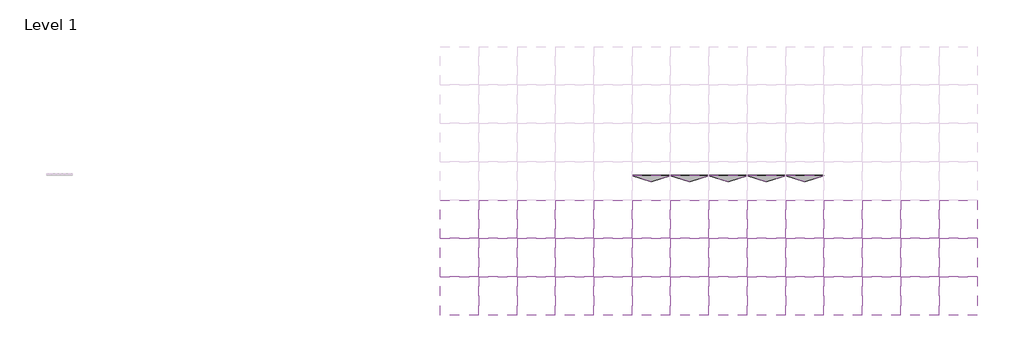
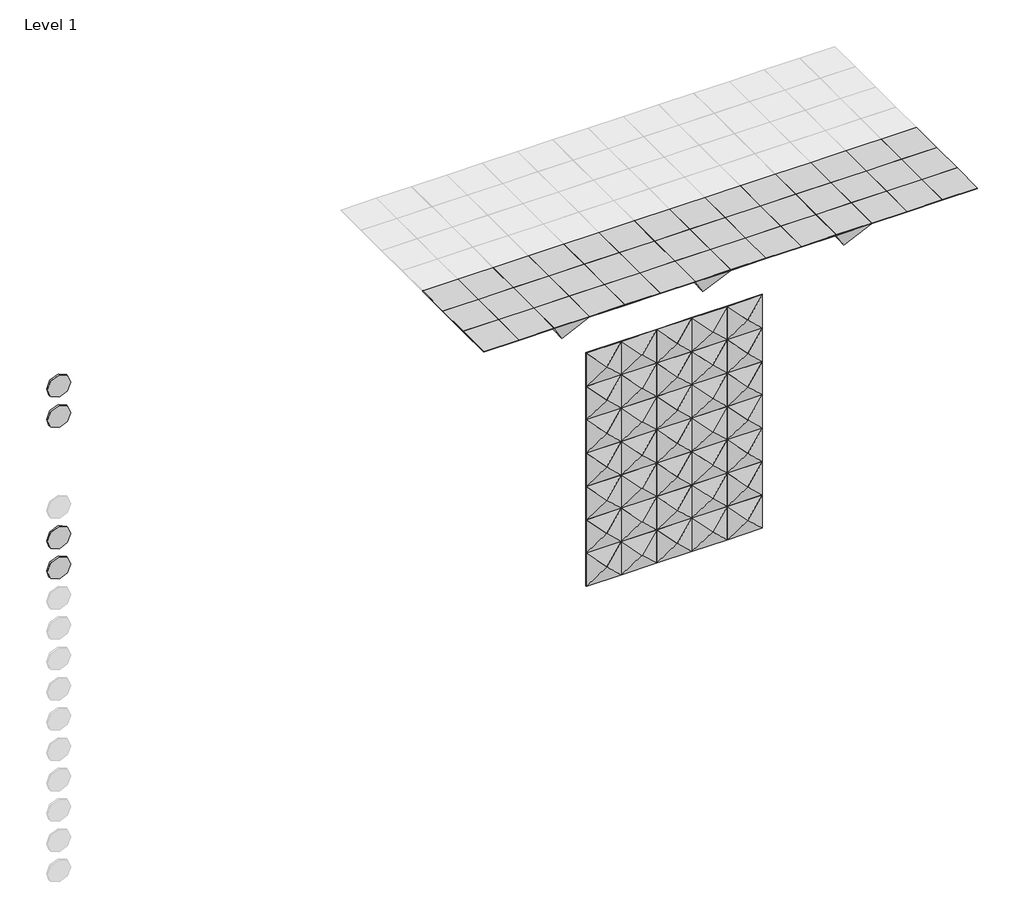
# One storey, part 1 of 2: 46 proxies, 35 plates.
"""IFC4 building model written with IfcOpenShell, lengths in millimetres."""

from ifc_helpers import new_model, si_unit, origin, place, context, project, spatial, transform, mapped, element, save
from components import generic_models_96c18039, generic_models_05e9e51e, generic_models_07637b28, materialmodel_materialmodel_8d9c29e1, plate_2ed3a2ff

model = new_model("IFC4")

# Units and contexts
model_context = context("Model", 3, world=origin())
ifc_project = project(units=[si_unit("LENGTHUNIT", "METRE", prefix="MILLI")], contexts=[model_context])

# Site, building, storey
site = spatial("IfcSite", under=ifc_project)
building = spatial("IfcBuilding", under=site)
storey = spatial("IfcBuildingStorey", under=building, Name="Level 1", Elevation=0.0)

# Proxies
placement = place(None, origin())
generic_models_shape = generic_models_96c18039(model_context)
element("IfcBuildingElementProxy", 1, Name="Offecct - Spiegel Panel - High : Offecct - Spiegel Panel - High", ObjectType="Offecct - Spiegel Panel - High : Offecct - Spiegel Panel - High", at=placement, inside=storey, context=model_context, shape_type="MappedRepresentation", body=[
    mapped(generic_models_shape, transform((-2002.4310671, -1268.9324246, 6600.0), x_axis=(1.0, 0.0, 0.0), y_axis=(0.0, -1.0, 0.0), z_axis=(0.0, 0.0, -1.0))),
])
element("IfcBuildingElementProxy", 2, Name="Offecct - Spiegel Panel - High : Offecct - Spiegel Panel - High", ObjectType="Offecct - Spiegel Panel - High : Offecct - Spiegel Panel - High", at=placement, inside=storey, context=model_context, shape_type="MappedRepresentation", body=[
    mapped(generic_models_shape, transform((397.5689329, -1268.9324246, 6600.0), x_axis=(1.0, 0.0, 0.0), y_axis=(0.0, -1.0, 0.0), z_axis=(0.0, 0.0, -1.0))),
])
element("IfcBuildingElementProxy", 3, Name="Offecct - Spiegel Panel - High : Offecct - Spiegel Panel - High", ObjectType="Offecct - Spiegel Panel - High : Offecct - Spiegel Panel - High", at=placement, inside=storey, context=model_context, shape_type="MappedRepresentation", body=[
    mapped(generic_models_shape, transform((2797.5689329, -1268.9324246, 6600.0), x_axis=(1.0, 0.0, 0.0), y_axis=(0.0, -1.0, 0.0), z_axis=(0.0, 0.0, -1.0))),
])
element("IfcBuildingElementProxy", 4, Name="Offecct - Spiegel Panel - High : Offecct - Spiegel Panel - High", ObjectType="Offecct - Spiegel Panel - High : Offecct - Spiegel Panel - High", at=placement, inside=storey, context=model_context, shape_type="MappedRepresentation", body=[
    mapped(generic_models_shape, transform((-2002.4310671, -668.9324246, 6600.0), x_axis=(1.0, 0.0, 0.0), y_axis=(0.0, -1.0, 0.0), z_axis=(0.0, 0.0, -1.0))),
])
element("IfcBuildingElementProxy", 5, Name="Offecct - Spiegel Panel - High : Offecct - Spiegel Panel - High", ObjectType="Offecct - Spiegel Panel - High : Offecct - Spiegel Panel - High", at=placement, inside=storey, context=model_context, shape_type="MappedRepresentation", body=[
    mapped(generic_models_shape, transform((397.5689329, -668.9324246, 6600.0), x_axis=(1.0, 0.0, 0.0), y_axis=(0.0, -1.0, 0.0), z_axis=(0.0, 0.0, -1.0))),
])
element("IfcBuildingElementProxy", 6, Name="Offecct - Spiegel Panel - High : Offecct - Spiegel Panel - High", ObjectType="Offecct - Spiegel Panel - High : Offecct - Spiegel Panel - High", at=placement, inside=storey, context=model_context, shape_type="MappedRepresentation", body=[
    mapped(generic_models_shape, transform((2797.5689329, -668.9324246, 6600.0), x_axis=(1.0, 0.0, 0.0), y_axis=(0.0, -1.0, 0.0), z_axis=(0.0, 0.0, -1.0))),
])
element("IfcBuildingElementProxy", 7, Name="Offecct - Spiegel Panel - High : Offecct - Spiegel Panel - High", ObjectType="Offecct - Spiegel Panel - High : Offecct - Spiegel Panel - High", at=placement, inside=storey, context=model_context, shape_type="MappedRepresentation", body=[
    mapped(generic_models_shape, transform((-2002.4310671, -68.9324246, 6600.0), x_axis=(1.0, 0.0, 0.0), y_axis=(0.0, -1.0, 0.0), z_axis=(0.0, 0.0, -1.0))),
])
element("IfcBuildingElementProxy", 8, Name="Offecct - Spiegel Panel - High : Offecct - Spiegel Panel - High", ObjectType="Offecct - Spiegel Panel - High : Offecct - Spiegel Panel - High", at=placement, inside=storey, context=model_context, shape_type="MappedRepresentation", body=[
    mapped(generic_models_shape, transform((397.5689329, -68.9324246, 6600.0), x_axis=(1.0, 0.0, 0.0), y_axis=(0.0, -1.0, 0.0), z_axis=(0.0, 0.0, -1.0))),
])
element("IfcBuildingElementProxy", 9, Name="Offecct - Spiegel Panel - High : Offecct - Spiegel Panel - High", ObjectType="Offecct - Spiegel Panel - High : Offecct - Spiegel Panel - High", at=placement, inside=storey, context=model_context, shape_type="MappedRepresentation", body=[
    mapped(generic_models_shape, transform((2797.5689329, -68.9324246, 6600.0), x_axis=(1.0, 0.0, 0.0), y_axis=(0.0, -1.0, 0.0), z_axis=(0.0, 0.0, -1.0))),
])
generic_models_2_shape = generic_models_05e9e51e(model_context)
element("IfcBuildingElementProxy", 10, Name="Offecct - Spiegel Panel - Medium : Offecct - Spiegel Panel - Medium", ObjectType="Offecct - Spiegel Panel - Medium : Offecct - Spiegel Panel - Medium", at=placement, inside=storey, context=model_context, shape_type="MappedRepresentation", body=[
    mapped(generic_models_2_shape, transform((-2602.4310671, -1268.9324246, 6600.0), x_axis=(1.0, 0.0, 0.0), y_axis=(0.0, -1.0, 0.0), z_axis=(0.0, 0.0, -1.0))),
])
element("IfcBuildingElementProxy", 11, Name="Offecct - Spiegel Panel - Medium : Offecct - Spiegel Panel - Medium", ObjectType="Offecct - Spiegel Panel - Medium : Offecct - Spiegel Panel - Medium", at=placement, inside=storey, context=model_context, shape_type="MappedRepresentation", body=[
    mapped(generic_models_2_shape, transform((-1402.4310671, -1268.9324246, 6600.0), x_axis=(1.0, 0.0, 0.0), y_axis=(0.0, -1.0, 0.0), z_axis=(0.0, 0.0, -1.0))),
])
element("IfcBuildingElementProxy", 12, Name="Offecct - Spiegel Panel - Medium : Offecct - Spiegel Panel - Medium", ObjectType="Offecct - Spiegel Panel - Medium : Offecct - Spiegel Panel - Medium", at=placement, inside=storey, context=model_context, shape_type="MappedRepresentation", body=[
    mapped(generic_models_2_shape, transform((-202.4310671, -1268.9324246, 6600.0), x_axis=(1.0, 0.0, 0.0), y_axis=(0.0, -1.0, 0.0), z_axis=(0.0, 0.0, -1.0))),
])
element("IfcBuildingElementProxy", 13, Name="Offecct - Spiegel Panel - Medium : Offecct - Spiegel Panel - Medium", ObjectType="Offecct - Spiegel Panel - Medium : Offecct - Spiegel Panel - Medium", at=placement, inside=storey, context=model_context, shape_type="MappedRepresentation", body=[
    mapped(generic_models_2_shape, transform((997.5689329, -1268.9324246, 6600.0), x_axis=(1.0, 0.0, 0.0), y_axis=(0.0, -1.0, 0.0), z_axis=(0.0, 0.0, -1.0))),
])
element("IfcBuildingElementProxy", 14, Name="Offecct - Spiegel Panel - Medium : Offecct - Spiegel Panel - Medium", ObjectType="Offecct - Spiegel Panel - Medium : Offecct - Spiegel Panel - Medium", at=placement, inside=storey, context=model_context, shape_type="MappedRepresentation", body=[
    mapped(generic_models_2_shape, transform((2197.5689329, -1268.9324246, 6600.0), x_axis=(1.0, 0.0, 0.0), y_axis=(0.0, -1.0, 0.0), z_axis=(0.0, 0.0, -1.0))),
])
element("IfcBuildingElementProxy", 15, Name="Offecct - Spiegel Panel - Medium : Offecct - Spiegel Panel - Medium", ObjectType="Offecct - Spiegel Panel - Medium : Offecct - Spiegel Panel - Medium", at=placement, inside=storey, context=model_context, shape_type="MappedRepresentation", body=[
    mapped(generic_models_2_shape, transform((3397.5689329, -1268.9324246, 6600.0), x_axis=(1.0, 0.0, 0.0), y_axis=(0.0, -1.0, 0.0), z_axis=(0.0, 0.0, -1.0))),
])
element("IfcBuildingElementProxy", 16, Name="Offecct - Spiegel Panel - Medium : Offecct - Spiegel Panel - Medium", ObjectType="Offecct - Spiegel Panel - Medium : Offecct - Spiegel Panel - Medium", at=placement, inside=storey, context=model_context, shape_type="MappedRepresentation", body=[
    mapped(generic_models_2_shape, transform((4597.5689329, -1268.9324246, 6600.0), x_axis=(1.0, 0.0, 0.0), y_axis=(0.0, -1.0, 0.0), z_axis=(0.0, 0.0, -1.0))),
])
element("IfcBuildingElementProxy", 17, Name="Offecct - Spiegel Panel - Medium : Offecct - Spiegel Panel - Medium", ObjectType="Offecct - Spiegel Panel - Medium : Offecct - Spiegel Panel - Medium", at=placement, inside=storey, context=model_context, shape_type="MappedRepresentation", body=[
    mapped(generic_models_2_shape, transform((-2602.4310671, -668.9324246, 6600.0), x_axis=(1.0, 0.0, 0.0), y_axis=(0.0, -1.0, 0.0), z_axis=(0.0, 0.0, -1.0))),
])
element("IfcBuildingElementProxy", 18, Name="Offecct - Spiegel Panel - Medium : Offecct - Spiegel Panel - Medium", ObjectType="Offecct - Spiegel Panel - Medium : Offecct - Spiegel Panel - Medium", at=placement, inside=storey, context=model_context, shape_type="MappedRepresentation", body=[
    mapped(generic_models_2_shape, transform((-1402.4310671, -668.9324246, 6600.0), x_axis=(1.0, 0.0, 0.0), y_axis=(0.0, -1.0, 0.0), z_axis=(0.0, 0.0, -1.0))),
])
element("IfcBuildingElementProxy", 19, Name="Offecct - Spiegel Panel - Medium : Offecct - Spiegel Panel - Medium", ObjectType="Offecct - Spiegel Panel - Medium : Offecct - Spiegel Panel - Medium", at=placement, inside=storey, context=model_context, shape_type="MappedRepresentation", body=[
    mapped(generic_models_2_shape, transform((-202.4310671, -668.9324246, 6600.0), x_axis=(1.0, 0.0, 0.0), y_axis=(0.0, -1.0, 0.0), z_axis=(0.0, 0.0, -1.0))),
])
element("IfcBuildingElementProxy", 20, Name="Offecct - Spiegel Panel - Medium : Offecct - Spiegel Panel - Medium", ObjectType="Offecct - Spiegel Panel - Medium : Offecct - Spiegel Panel - Medium", at=placement, inside=storey, context=model_context, shape_type="MappedRepresentation", body=[
    mapped(generic_models_2_shape, transform((997.5689329, -668.9324246, 6600.0), x_axis=(1.0, 0.0, 0.0), y_axis=(0.0, -1.0, 0.0), z_axis=(0.0, 0.0, -1.0))),
])
element("IfcBuildingElementProxy", 21, Name="Offecct - Spiegel Panel - Medium : Offecct - Spiegel Panel - Medium", ObjectType="Offecct - Spiegel Panel - Medium : Offecct - Spiegel Panel - Medium", at=placement, inside=storey, context=model_context, shape_type="MappedRepresentation", body=[
    mapped(generic_models_2_shape, transform((2197.5689329, -668.9324246, 6600.0), x_axis=(1.0, 0.0, 0.0), y_axis=(0.0, -1.0, 0.0), z_axis=(0.0, 0.0, -1.0))),
])
element("IfcBuildingElementProxy", 22, Name="Offecct - Spiegel Panel - Medium : Offecct - Spiegel Panel - Medium", ObjectType="Offecct - Spiegel Panel - Medium : Offecct - Spiegel Panel - Medium", at=placement, inside=storey, context=model_context, shape_type="MappedRepresentation", body=[
    mapped(generic_models_2_shape, transform((3397.5689329, -668.9324246, 6600.0), x_axis=(1.0, 0.0, 0.0), y_axis=(0.0, -1.0, 0.0), z_axis=(0.0, 0.0, -1.0))),
])
element("IfcBuildingElementProxy", 23, Name="Offecct - Spiegel Panel - Medium : Offecct - Spiegel Panel - Medium", ObjectType="Offecct - Spiegel Panel - Medium : Offecct - Spiegel Panel - Medium", at=placement, inside=storey, context=model_context, shape_type="MappedRepresentation", body=[
    mapped(generic_models_2_shape, transform((4597.5689329, -668.9324246, 6600.0), x_axis=(1.0, 0.0, 0.0), y_axis=(0.0, -1.0, 0.0), z_axis=(0.0, 0.0, -1.0))),
])
element("IfcBuildingElementProxy", 24, Name="Offecct - Spiegel Panel - Medium : Offecct - Spiegel Panel - Medium", ObjectType="Offecct - Spiegel Panel - Medium : Offecct - Spiegel Panel - Medium", at=placement, inside=storey, context=model_context, shape_type="MappedRepresentation", body=[
    mapped(generic_models_2_shape, transform((-2602.4310671, -68.9324246, 6600.0), x_axis=(1.0, 0.0, 0.0), y_axis=(0.0, -1.0, 0.0), z_axis=(0.0, 0.0, -1.0))),
])
element("IfcBuildingElementProxy", 25, Name="Offecct - Spiegel Panel - Medium : Offecct - Spiegel Panel - Medium", ObjectType="Offecct - Spiegel Panel - Medium : Offecct - Spiegel Panel - Medium", at=placement, inside=storey, context=model_context, shape_type="MappedRepresentation", body=[
    mapped(generic_models_2_shape, transform((-1402.4310671, -68.9324246, 6600.0), x_axis=(1.0, 0.0, 0.0), y_axis=(0.0, -1.0, 0.0), z_axis=(0.0, 0.0, -1.0))),
])
element("IfcBuildingElementProxy", 26, Name="Offecct - Spiegel Panel - Medium : Offecct - Spiegel Panel - Medium", ObjectType="Offecct - Spiegel Panel - Medium : Offecct - Spiegel Panel - Medium", at=placement, inside=storey, context=model_context, shape_type="MappedRepresentation", body=[
    mapped(generic_models_2_shape, transform((-202.4310671, -68.9324246, 6600.0), x_axis=(1.0, 0.0, 0.0), y_axis=(0.0, -1.0, 0.0), z_axis=(0.0, 0.0, -1.0))),
])
element("IfcBuildingElementProxy", 27, Name="Offecct - Spiegel Panel - Medium : Offecct - Spiegel Panel - Medium", ObjectType="Offecct - Spiegel Panel - Medium : Offecct - Spiegel Panel - Medium", at=placement, inside=storey, context=model_context, shape_type="MappedRepresentation", body=[
    mapped(generic_models_2_shape, transform((997.5689329, -68.9324246, 6600.0), x_axis=(1.0, 0.0, 0.0), y_axis=(0.0, -1.0, 0.0), z_axis=(0.0, 0.0, -1.0))),
])
element("IfcBuildingElementProxy", 28, Name="Offecct - Spiegel Panel - Medium : Offecct - Spiegel Panel - Medium", ObjectType="Offecct - Spiegel Panel - Medium : Offecct - Spiegel Panel - Medium", at=placement, inside=storey, context=model_context, shape_type="MappedRepresentation", body=[
    mapped(generic_models_2_shape, transform((2197.5689329, -68.9324246, 6600.0), x_axis=(1.0, 0.0, 0.0), y_axis=(0.0, -1.0, 0.0), z_axis=(0.0, 0.0, -1.0))),
])
element("IfcBuildingElementProxy", 29, Name="Offecct - Spiegel Panel - Medium : Offecct - Spiegel Panel - Medium", ObjectType="Offecct - Spiegel Panel - Medium : Offecct - Spiegel Panel - Medium", at=placement, inside=storey, context=model_context, shape_type="MappedRepresentation", body=[
    mapped(generic_models_2_shape, transform((3397.5689329, -68.9324246, 6600.0), x_axis=(1.0, 0.0, 0.0), y_axis=(0.0, -1.0, 0.0), z_axis=(0.0, 0.0, -1.0))),
])
element("IfcBuildingElementProxy", 30, Name="Offecct - Spiegel Panel - Medium : Offecct - Spiegel Panel - Medium", ObjectType="Offecct - Spiegel Panel - Medium : Offecct - Spiegel Panel - Medium", at=placement, inside=storey, context=model_context, shape_type="MappedRepresentation", body=[
    mapped(generic_models_2_shape, transform((4597.5689329, -68.9324246, 6600.0), x_axis=(1.0, 0.0, 0.0), y_axis=(0.0, -1.0, 0.0), z_axis=(0.0, 0.0, -1.0))),
])
generic_models_3_shape = generic_models_07637b28(model_context)
element("IfcBuildingElementProxy", 31, Name="Offecct - Spiegel Panel - Low : Offecct - Spiegel Panel - Low", ObjectType="Offecct - Spiegel Panel - Low : Offecct - Spiegel Panel - Low", at=placement, inside=storey, context=model_context, shape_type="MappedRepresentation", body=[
    mapped(generic_models_3_shape, transform((-802.4310671, -1268.9324246, 6600.0), x_axis=(1.0, 0.0, 0.0), y_axis=(0.0, -1.0, 0.0), z_axis=(0.0, 0.0, -1.0))),
])
element("IfcBuildingElementProxy", 32, Name="Offecct - Spiegel Panel - Low : Offecct - Spiegel Panel - Low", ObjectType="Offecct - Spiegel Panel - Low : Offecct - Spiegel Panel - Low", at=placement, inside=storey, context=model_context, shape_type="MappedRepresentation", body=[
    mapped(generic_models_3_shape, transform((1597.5689329, -1268.9324246, 6600.0), x_axis=(1.0, 0.0, 0.0), y_axis=(0.0, -1.0, 0.0), z_axis=(0.0, 0.0, -1.0))),
])
element("IfcBuildingElementProxy", 33, Name="Offecct - Spiegel Panel - Low : Offecct - Spiegel Panel - Low", ObjectType="Offecct - Spiegel Panel - Low : Offecct - Spiegel Panel - Low", at=placement, inside=storey, context=model_context, shape_type="MappedRepresentation", body=[
    mapped(generic_models_3_shape, transform((3997.5689329, -1268.9324246, 6600.0), x_axis=(1.0, 0.0, 0.0), y_axis=(0.0, -1.0, 0.0), z_axis=(0.0, 0.0, -1.0))),
])
element("IfcBuildingElementProxy", 34, Name="Offecct - Spiegel Panel - Low : Offecct - Spiegel Panel - Low", ObjectType="Offecct - Spiegel Panel - Low : Offecct - Spiegel Panel - Low", at=placement, inside=storey, context=model_context, shape_type="MappedRepresentation", body=[
    mapped(generic_models_3_shape, transform((-802.4310671, -668.9324246, 6600.0), x_axis=(1.0, 0.0, 0.0), y_axis=(0.0, -1.0, 0.0), z_axis=(0.0, 0.0, -1.0))),
])
element("IfcBuildingElementProxy", 35, Name="Offecct - Spiegel Panel - Low : Offecct - Spiegel Panel - Low", ObjectType="Offecct - Spiegel Panel - Low : Offecct - Spiegel Panel - Low", at=placement, inside=storey, context=model_context, shape_type="MappedRepresentation", body=[
    mapped(generic_models_3_shape, transform((1597.5689329, -668.9324246, 6600.0), x_axis=(1.0, 0.0, 0.0), y_axis=(0.0, -1.0, 0.0), z_axis=(0.0, 0.0, -1.0))),
])
element("IfcBuildingElementProxy", 36, Name="Offecct - Spiegel Panel - Low : Offecct - Spiegel Panel - Low", ObjectType="Offecct - Spiegel Panel - Low : Offecct - Spiegel Panel - Low", at=placement, inside=storey, context=model_context, shape_type="MappedRepresentation", body=[
    mapped(generic_models_3_shape, transform((3997.5689329, -668.9324246, 6600.0), x_axis=(1.0, 0.0, 0.0), y_axis=(0.0, -1.0, 0.0), z_axis=(0.0, 0.0, -1.0))),
])
element("IfcBuildingElementProxy", 37, Name="Offecct - Spiegel Panel - Low : Offecct - Spiegel Panel - Low", ObjectType="Offecct - Spiegel Panel - Low : Offecct - Spiegel Panel - Low", at=placement, inside=storey, context=model_context, shape_type="MappedRepresentation", body=[
    mapped(generic_models_3_shape, transform((-802.4310671, -68.9324246, 6600.0), x_axis=(1.0, 0.0, 0.0), y_axis=(0.0, -1.0, 0.0), z_axis=(0.0, 0.0, -1.0))),
])
element("IfcBuildingElementProxy", 38, Name="Offecct - Spiegel Panel - Low : Offecct - Spiegel Panel - Low", ObjectType="Offecct - Spiegel Panel - Low : Offecct - Spiegel Panel - Low", at=placement, inside=storey, context=model_context, shape_type="MappedRepresentation", body=[
    mapped(generic_models_3_shape, transform((1597.5689329, -68.9324246, 6600.0), x_axis=(1.0, 0.0, 0.0), y_axis=(0.0, -1.0, 0.0), z_axis=(0.0, 0.0, -1.0))),
])
element("IfcBuildingElementProxy", 39, Name="Offecct - Spiegel Panel - Low : Offecct - Spiegel Panel - Low", ObjectType="Offecct - Spiegel Panel - Low : Offecct - Spiegel Panel - Low", at=placement, inside=storey, context=model_context, shape_type="MappedRepresentation", body=[
    mapped(generic_models_3_shape, transform((3997.5689329, -68.9324246, 6600.0), x_axis=(1.0, 0.0, 0.0), y_axis=(0.0, -1.0, 0.0), z_axis=(0.0, 0.0, -1.0))),
])
element("IfcBuildingElementProxy", 40, Name="Offecct - Spiegel Panel - Low : Offecct - Spiegel Panel - Low", ObjectType="Offecct - Spiegel Panel - Low : Offecct - Spiegel Panel - Low", at=placement, inside=storey, context=model_context, shape_type="MappedRepresentation", body=[
    mapped(generic_models_3_shape, transform((-3202.4310671, -1268.9324246, 6600.0), x_axis=(1.0, 0.0, 0.0), y_axis=(0.0, -1.0, 0.0), z_axis=(0.0, 0.0, -1.0))),
])
element("IfcBuildingElementProxy", 41, Name="Offecct - Spiegel Panel - Low : Offecct - Spiegel Panel - Low", ObjectType="Offecct - Spiegel Panel - Low : Offecct - Spiegel Panel - Low", at=placement, inside=storey, context=model_context, shape_type="MappedRepresentation", body=[
    mapped(generic_models_3_shape, transform((-3202.4310671, -668.9324246, 6600.0), x_axis=(1.0, 0.0, 0.0), y_axis=(0.0, -1.0, 0.0), z_axis=(0.0, 0.0, -1.0))),
])
element("IfcBuildingElementProxy", 42, Name="Offecct - Spiegel Panel - Low : Offecct - Spiegel Panel - Low", ObjectType="Offecct - Spiegel Panel - Low : Offecct - Spiegel Panel - Low", at=placement, inside=storey, context=model_context, shape_type="MappedRepresentation", body=[
    mapped(generic_models_3_shape, transform((-3202.4310671, -68.9324246, 6600.0), x_axis=(1.0, 0.0, 0.0), y_axis=(0.0, -1.0, 0.0), z_axis=(0.0, 0.0, -1.0))),
])
materialmodel_materialmodel_shape = materialmodel_materialmodel_8d9c29e1(model_context)
element("IfcBuildingElementProxy", 43, Name="MaterialModel : MaterialModel", ObjectType="MaterialModel : MaterialModel", at=placement, inside=storey, context=model_context, shape_type="MappedRepresentation", body=[
    mapped(materialmodel_materialmodel_shape, transform((-9459.2715742, 621.415272, 6707.8796147), x_axis=(1.0, 0.0, 0.0), y_axis=(0.0, 1.0, 0.0), z_axis=(0.0, 0.0, 1.0))),
])
element("IfcBuildingElementProxy", 44, Name="MaterialModel : MaterialModel", ObjectType="MaterialModel : MaterialModel", at=placement, inside=storey, context=model_context, shape_type="MappedRepresentation", body=[
    mapped(materialmodel_materialmodel_shape, transform((-9459.2715742, 621.415272, 6162.7302543), x_axis=(1.0, 0.0, 0.0), y_axis=(0.0, 1.0, 0.0), z_axis=(0.0, 0.0, 1.0))),
])
element("IfcBuildingElementProxy", 45, Name="MaterialModel : MaterialModel", ObjectType="MaterialModel : MaterialModel", at=placement, inside=storey, context=model_context, shape_type="MappedRepresentation", body=[
    mapped(materialmodel_materialmodel_shape, transform((-9459.2715742, 621.415272, 3982.1328128), x_axis=(1.0, 0.0, 0.0), y_axis=(0.0, 1.0, 0.0), z_axis=(0.0, 0.0, 1.0))),
])
element("IfcBuildingElementProxy", 46, Name="MaterialModel : MaterialModel", ObjectType="MaterialModel : MaterialModel", at=placement, inside=storey, context=model_context, shape_type="MappedRepresentation", body=[
    mapped(materialmodel_materialmodel_shape, transform((-9459.2715742, 621.415272, 3436.9834524), x_axis=(1.0, 0.0, 0.0), y_axis=(0.0, 1.0, 0.0), z_axis=(0.0, 0.0, 1.0))),
])

# Plates
plate_shape = plate_2ed3a2ff(model_context)
element("IfcPlate", 47, ObjectType="Offecct - Spiegel Curtain Panel - Low : Offecct - Spiegel Curtain Panel - Low", at=placement, inside=storey, context=model_context, shape_type="MappedRepresentation", body=[
    mapped(plate_shape, transform((-202.4310672, 621.415272, 0.0), x_axis=(1.0, 0.0, 0.0), y_axis=(0.0, 1.0, 0.0), z_axis=(0.0, 0.0, 1.0))),
])
element("IfcPlate", 48, ObjectType="Offecct - Spiegel Curtain Panel - Low : Offecct - Spiegel Curtain Panel - Low", at=placement, inside=storey, context=model_context, shape_type="MappedRepresentation", body=[
    mapped(plate_shape, transform((397.5689329, 621.415272, 0.0), x_axis=(1.0, 0.0, 0.0), y_axis=(0.0, 1.0, 0.0), z_axis=(0.0, 0.0, 1.0))),
])
element("IfcPlate", 49, ObjectType="Offecct - Spiegel Curtain Panel - Low : Offecct - Spiegel Curtain Panel - Low", at=placement, inside=storey, context=model_context, shape_type="MappedRepresentation", body=[
    mapped(plate_shape, transform((-202.4310672, 621.415272, 600.0), x_axis=(1.0, 0.0, 0.0), y_axis=(0.0, 1.0, 0.0), z_axis=(0.0, 0.0, 1.0))),
])
element("IfcPlate", 50, ObjectType="Offecct - Spiegel Curtain Panel - Low : Offecct - Spiegel Curtain Panel - Low", at=placement, inside=storey, context=model_context, shape_type="MappedRepresentation", body=[
    mapped(plate_shape, transform((397.5689329, 621.415272, 600.0), x_axis=(1.0, 0.0, 0.0), y_axis=(0.0, 1.0, 0.0), z_axis=(0.0, 0.0, 1.0))),
])
element("IfcPlate", 51, ObjectType="Offecct - Spiegel Curtain Panel - Low : Offecct - Spiegel Curtain Panel - Low", at=placement, inside=storey, context=model_context, shape_type="MappedRepresentation", body=[
    mapped(plate_shape, transform((-202.4310672, 621.415272, 1200.0), x_axis=(1.0, 0.0, 0.0), y_axis=(0.0, 1.0, 0.0), z_axis=(0.0, 0.0, 1.0))),
])
element("IfcPlate", 52, ObjectType="Offecct - Spiegel Curtain Panel - Low : Offecct - Spiegel Curtain Panel - Low", at=placement, inside=storey, context=model_context, shape_type="MappedRepresentation", body=[
    mapped(plate_shape, transform((397.5689329, 621.415272, 1200.0), x_axis=(1.0, 0.0, 0.0), y_axis=(0.0, 1.0, 0.0), z_axis=(0.0, 0.0, 1.0))),
])
element("IfcPlate", 53, ObjectType="Offecct - Spiegel Curtain Panel - Low : Offecct - Spiegel Curtain Panel - Low", at=placement, inside=storey, context=model_context, shape_type="MappedRepresentation", body=[
    mapped(plate_shape, transform((-202.4310672, 621.415272, 1800.0), x_axis=(1.0, 0.0, 0.0), y_axis=(0.0, 1.0, 0.0), z_axis=(0.0, 0.0, 1.0))),
])
element("IfcPlate", 54, ObjectType="Offecct - Spiegel Curtain Panel - Low : Offecct - Spiegel Curtain Panel - Low", at=placement, inside=storey, context=model_context, shape_type="MappedRepresentation", body=[
    mapped(plate_shape, transform((397.5689329, 621.415272, 1800.0), x_axis=(1.0, 0.0, 0.0), y_axis=(0.0, 1.0, 0.0), z_axis=(0.0, 0.0, 1.0))),
])
element("IfcPlate", 55, ObjectType="Offecct - Spiegel Curtain Panel - Low : Offecct - Spiegel Curtain Panel - Low", at=placement, inside=storey, context=model_context, shape_type="MappedRepresentation", body=[
    mapped(plate_shape, transform((997.5689329, 621.415272, 0.0), x_axis=(1.0, 0.0, 0.0), y_axis=(0.0, 1.0, 0.0), z_axis=(0.0, 0.0, 1.0))),
])
element("IfcPlate", 56, ObjectType="Offecct - Spiegel Curtain Panel - Low : Offecct - Spiegel Curtain Panel - Low", at=placement, inside=storey, context=model_context, shape_type="MappedRepresentation", body=[
    mapped(plate_shape, transform((997.5689329, 621.415272, 600.0), x_axis=(1.0, 0.0, 0.0), y_axis=(0.0, 1.0, 0.0), z_axis=(0.0, 0.0, 1.0))),
])
element("IfcPlate", 57, ObjectType="Offecct - Spiegel Curtain Panel - Low : Offecct - Spiegel Curtain Panel - Low", at=placement, inside=storey, context=model_context, shape_type="MappedRepresentation", body=[
    mapped(plate_shape, transform((997.5689329, 621.415272, 1200.0), x_axis=(1.0, 0.0, 0.0), y_axis=(0.0, 1.0, 0.0), z_axis=(0.0, 0.0, 1.0))),
])
element("IfcPlate", 58, ObjectType="Offecct - Spiegel Curtain Panel - Low : Offecct - Spiegel Curtain Panel - Low", at=placement, inside=storey, context=model_context, shape_type="MappedRepresentation", body=[
    mapped(plate_shape, transform((997.5689329, 621.415272, 1800.0), x_axis=(1.0, 0.0, 0.0), y_axis=(0.0, 1.0, 0.0), z_axis=(0.0, 0.0, 1.0))),
])
element("IfcPlate", 59, ObjectType="Offecct - Spiegel Curtain Panel - Low : Offecct - Spiegel Curtain Panel - Low", at=placement, inside=storey, context=model_context, shape_type="MappedRepresentation", body=[
    mapped(plate_shape, transform((1597.5689329, 621.415272, 0.0), x_axis=(1.0, 0.0, 0.0), y_axis=(0.0, 1.0, 0.0), z_axis=(0.0, 0.0, 1.0))),
])
element("IfcPlate", 60, ObjectType="Offecct - Spiegel Curtain Panel - Low : Offecct - Spiegel Curtain Panel - Low", at=placement, inside=storey, context=model_context, shape_type="MappedRepresentation", body=[
    mapped(plate_shape, transform((1597.5689329, 621.415272, 600.0), x_axis=(1.0, 0.0, 0.0), y_axis=(0.0, 1.0, 0.0), z_axis=(0.0, 0.0, 1.0))),
])
element("IfcPlate", 61, ObjectType="Offecct - Spiegel Curtain Panel - Low : Offecct - Spiegel Curtain Panel - Low", at=placement, inside=storey, context=model_context, shape_type="MappedRepresentation", body=[
    mapped(plate_shape, transform((1597.5689329, 621.415272, 1200.0), x_axis=(1.0, 0.0, 0.0), y_axis=(0.0, 1.0, 0.0), z_axis=(0.0, 0.0, 1.0))),
])
element("IfcPlate", 62, ObjectType="Offecct - Spiegel Curtain Panel - Low : Offecct - Spiegel Curtain Panel - Low", at=placement, inside=storey, context=model_context, shape_type="MappedRepresentation", body=[
    mapped(plate_shape, transform((1597.5689329, 621.415272, 1800.0), x_axis=(1.0, 0.0, 0.0), y_axis=(0.0, 1.0, 0.0), z_axis=(0.0, 0.0, 1.0))),
])
element("IfcPlate", 63, ObjectType="Offecct - Spiegel Curtain Panel - Low : Offecct - Spiegel Curtain Panel - Low", at=placement, inside=storey, context=model_context, shape_type="MappedRepresentation", body=[
    mapped(plate_shape, transform((2197.5689328, 621.415272, 0.0), x_axis=(1.0, 0.0, 0.0), y_axis=(0.0, 1.0, 0.0), z_axis=(0.0, 0.0, 1.0))),
])
element("IfcPlate", 64, ObjectType="Offecct - Spiegel Curtain Panel - Low : Offecct - Spiegel Curtain Panel - Low", at=placement, inside=storey, context=model_context, shape_type="MappedRepresentation", body=[
    mapped(plate_shape, transform((2197.5689328, 621.415272, 600.0), x_axis=(1.0, 0.0, 0.0), y_axis=(0.0, 1.0, 0.0), z_axis=(0.0, 0.0, 1.0))),
])
element("IfcPlate", 65, ObjectType="Offecct - Spiegel Curtain Panel - Low : Offecct - Spiegel Curtain Panel - Low", at=placement, inside=storey, context=model_context, shape_type="MappedRepresentation", body=[
    mapped(plate_shape, transform((2197.5689328, 621.415272, 1200.0), x_axis=(1.0, 0.0, 0.0), y_axis=(0.0, 1.0, 0.0), z_axis=(0.0, 0.0, 1.0))),
])
element("IfcPlate", 66, ObjectType="Offecct - Spiegel Curtain Panel - Low : Offecct - Spiegel Curtain Panel - Low", at=placement, inside=storey, context=model_context, shape_type="MappedRepresentation", body=[
    mapped(plate_shape, transform((2197.5689328, 621.415272, 1800.0), x_axis=(1.0, 0.0, 0.0), y_axis=(0.0, 1.0, 0.0), z_axis=(0.0, 0.0, 1.0))),
])
element("IfcPlate", 67, ObjectType="Offecct - Spiegel Curtain Panel - Low : Offecct - Spiegel Curtain Panel - Low", at=placement, inside=storey, context=model_context, shape_type="MappedRepresentation", body=[
    mapped(plate_shape, transform((-202.4310672, 621.415272, 2400.0), x_axis=(1.0, 0.0, 0.0), y_axis=(0.0, 1.0, 0.0), z_axis=(0.0, 0.0, 1.0))),
])
element("IfcPlate", 68, ObjectType="Offecct - Spiegel Curtain Panel - Low : Offecct - Spiegel Curtain Panel - Low", at=placement, inside=storey, context=model_context, shape_type="MappedRepresentation", body=[
    mapped(plate_shape, transform((397.5689329, 621.415272, 2400.0), x_axis=(1.0, 0.0, 0.0), y_axis=(0.0, 1.0, 0.0), z_axis=(0.0, 0.0, 1.0))),
])
element("IfcPlate", 69, ObjectType="Offecct - Spiegel Curtain Panel - Low : Offecct - Spiegel Curtain Panel - Low", at=placement, inside=storey, context=model_context, shape_type="MappedRepresentation", body=[
    mapped(plate_shape, transform((997.5689329, 621.415272, 2400.0), x_axis=(1.0, 0.0, 0.0), y_axis=(0.0, 1.0, 0.0), z_axis=(0.0, 0.0, 1.0))),
])
element("IfcPlate", 70, ObjectType="Offecct - Spiegel Curtain Panel - Low : Offecct - Spiegel Curtain Panel - Low", at=placement, inside=storey, context=model_context, shape_type="MappedRepresentation", body=[
    mapped(plate_shape, transform((1597.5689329, 621.415272, 2400.0), x_axis=(1.0, 0.0, 0.0), y_axis=(0.0, 1.0, 0.0), z_axis=(0.0, 0.0, 1.0))),
])
element("IfcPlate", 71, ObjectType="Offecct - Spiegel Curtain Panel - Low : Offecct - Spiegel Curtain Panel - Low", at=placement, inside=storey, context=model_context, shape_type="MappedRepresentation", body=[
    mapped(plate_shape, transform((2197.5689328, 621.415272, 2400.0), x_axis=(1.0, 0.0, 0.0), y_axis=(0.0, 1.0, 0.0), z_axis=(0.0, 0.0, 1.0))),
])
element("IfcPlate", 72, ObjectType="Offecct - Spiegel Curtain Panel - Low : Offecct - Spiegel Curtain Panel - Low", at=placement, inside=storey, context=model_context, shape_type="MappedRepresentation", body=[
    mapped(plate_shape, transform((-202.4310672, 621.415272, 3000.0), x_axis=(1.0, 0.0, 0.0), y_axis=(0.0, 1.0, 0.0), z_axis=(0.0, 0.0, 1.0))),
])
element("IfcPlate", 73, ObjectType="Offecct - Spiegel Curtain Panel - Low : Offecct - Spiegel Curtain Panel - Low", at=placement, inside=storey, context=model_context, shape_type="MappedRepresentation", body=[
    mapped(plate_shape, transform((397.5689329, 621.415272, 3000.0), x_axis=(1.0, 0.0, 0.0), y_axis=(0.0, 1.0, 0.0), z_axis=(0.0, 0.0, 1.0))),
])
element("IfcPlate", 74, ObjectType="Offecct - Spiegel Curtain Panel - Low : Offecct - Spiegel Curtain Panel - Low", at=placement, inside=storey, context=model_context, shape_type="MappedRepresentation", body=[
    mapped(plate_shape, transform((997.5689329, 621.415272, 3000.0), x_axis=(1.0, 0.0, 0.0), y_axis=(0.0, 1.0, 0.0), z_axis=(0.0, 0.0, 1.0))),
])
element("IfcPlate", 75, ObjectType="Offecct - Spiegel Curtain Panel - Low : Offecct - Spiegel Curtain Panel - Low", at=placement, inside=storey, context=model_context, shape_type="MappedRepresentation", body=[
    mapped(plate_shape, transform((1597.5689329, 621.415272, 3000.0), x_axis=(1.0, 0.0, 0.0), y_axis=(0.0, 1.0, 0.0), z_axis=(0.0, 0.0, 1.0))),
])
element("IfcPlate", 76, ObjectType="Offecct - Spiegel Curtain Panel - Low : Offecct - Spiegel Curtain Panel - Low", at=placement, inside=storey, context=model_context, shape_type="MappedRepresentation", body=[
    mapped(plate_shape, transform((2197.5689328, 621.415272, 3000.0), x_axis=(1.0, 0.0, 0.0), y_axis=(0.0, 1.0, 0.0), z_axis=(0.0, 0.0, 1.0))),
])
element("IfcPlate", 77, ObjectType="Offecct - Spiegel Curtain Panel - Low : Offecct - Spiegel Curtain Panel - Low", at=placement, inside=storey, context=model_context, shape_type="MappedRepresentation", body=[
    mapped(plate_shape, transform((-202.4310672, 621.415272, 3600.0), x_axis=(1.0, 0.0, 0.0), y_axis=(0.0, 1.0, 0.0), z_axis=(0.0, 0.0, 1.0))),
])
element("IfcPlate", 78, ObjectType="Offecct - Spiegel Curtain Panel - Low : Offecct - Spiegel Curtain Panel - Low", at=placement, inside=storey, context=model_context, shape_type="MappedRepresentation", body=[
    mapped(plate_shape, transform((397.5689329, 621.415272, 3600.0), x_axis=(1.0, 0.0, 0.0), y_axis=(0.0, 1.0, 0.0), z_axis=(0.0, 0.0, 1.0))),
])
element("IfcPlate", 79, ObjectType="Offecct - Spiegel Curtain Panel - Low : Offecct - Spiegel Curtain Panel - Low", at=placement, inside=storey, context=model_context, shape_type="MappedRepresentation", body=[
    mapped(plate_shape, transform((997.5689329, 621.415272, 3600.0), x_axis=(1.0, 0.0, 0.0), y_axis=(0.0, 1.0, 0.0), z_axis=(0.0, 0.0, 1.0))),
])
element("IfcPlate", 80, ObjectType="Offecct - Spiegel Curtain Panel - Low : Offecct - Spiegel Curtain Panel - Low", at=placement, inside=storey, context=model_context, shape_type="MappedRepresentation", body=[
    mapped(plate_shape, transform((1597.5689329, 621.415272, 3600.0), x_axis=(1.0, 0.0, 0.0), y_axis=(0.0, 1.0, 0.0), z_axis=(0.0, 0.0, 1.0))),
])
element("IfcPlate", 81, ObjectType="Offecct - Spiegel Curtain Panel - Low : Offecct - Spiegel Curtain Panel - Low", at=placement, inside=storey, context=model_context, shape_type="MappedRepresentation", body=[
    mapped(plate_shape, transform((2197.5689328, 621.415272, 3600.0), x_axis=(1.0, 0.0, 0.0), y_axis=(0.0, 1.0, 0.0), z_axis=(0.0, 0.0, 1.0))),
])

save(model, "model.ifc")
